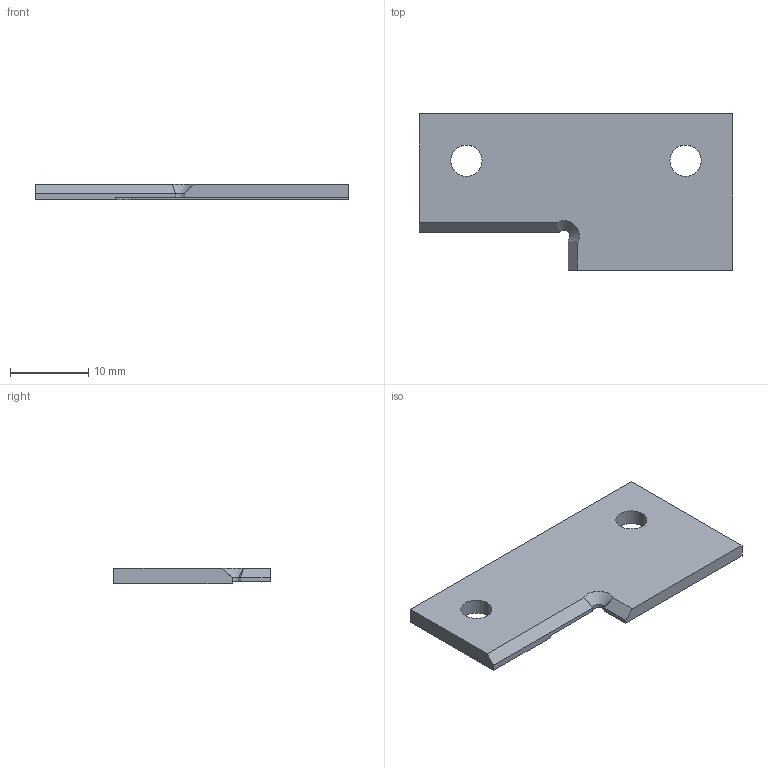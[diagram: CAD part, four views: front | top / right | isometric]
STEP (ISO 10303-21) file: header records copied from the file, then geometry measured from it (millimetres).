
FILE_DESCRIPTION(('CATIA V5 STEP Exchange'),'2;1');
FILE_NAME('D:\CATIA\ATLAS\Atlas_Maarten\atlas_upgrade_maarten\Ass.Module\STP\Guide_Languette_HV.stp','2010-09-02T14:38:40+00:00',('none'),('none'),'CATIA Version 5 Release 18 SP 4 (IN-10)','CATIA V5 STEP AP203','none');
FILE_SCHEMA(('CONFIG_CONTROL_DESIGN'));
Length unit declared in the file: millimetre
Products named in the file (1): Guide_Languette_HV
Bounding box: 40 x 20 x 2 mm (x, y, z)
Volume: 1266.9 mm3; surface area: 1633.1 mm2
Topology: 1 solids, 1 shells, 22 faces, 57 edges, 37 vertices
Faces by surface type: plane 13, cylinder 7, cone 2
Entity records: 698 total; most frequent: CARTESIAN_POINT 124, ORIENTED_EDGE 114, DIRECTION 93, EDGE_CURVE 57, VECTOR 39, LINE 39, VERTEX_POINT 37, AXIS2_PLACEMENT_3D 36
